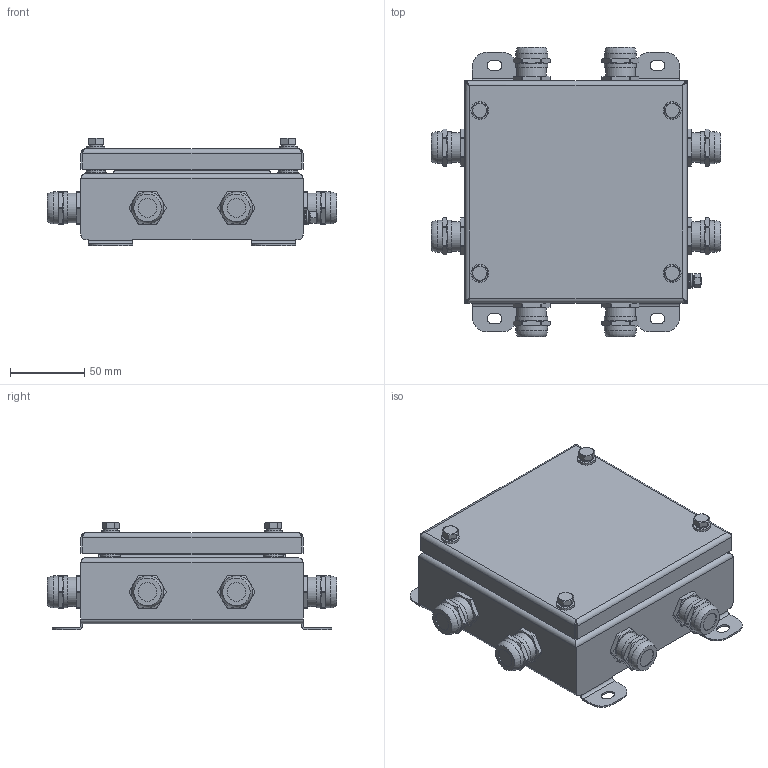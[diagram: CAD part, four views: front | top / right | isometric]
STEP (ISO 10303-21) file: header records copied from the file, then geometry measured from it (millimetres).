
FILE_DESCRIPTION(('STEP AP203'), '1');
FILE_NAME('Êîðîáêà 1515 IP66', '', ('UNSPECIFIED'), ('UNSPECIFIED'), 'ASCON STEP Converter 1.6', 'ASCON Math Kernel', '');
FILE_SCHEMA(('CONFIG_CONTROL_DESIGN'));
Length unit declared in the file: millimetre
Bounding box: 195.67 x 195.67 x 72.5 mm (x, y, z)
Volume: 1331915.2 mm3; surface area: 131695.3 mm2
Topology: 1 solids, 1 shells, 623 faces, 1542 edges, 978 vertices
Faces by surface type: plane 306, cylinder 223, cone 72, torus 14, bspline 8
Full cylindrical faces by diameter (mm): 3.7 x1, 5 x2, 5.5 x2, 6 x4, 6.5 x1, 6.6 x4, 8.5 x4, 10 x2, 12 x4, 12.6 x8, 13 x4, 14 x4, 20 x8, 21.6 x16
Entity records: 33705 total; most frequent: CARTESIAN_POINT 5962, DIRECTION 2920, ORIENTED_EDGE 2880, PROPERTY_DEFINITION 1888, PROPERTY_DEFINITION_REPRESENTATION 1888, REPRESENTATION 1888, EDGE_CURVE 1440, AXIS2_PLACEMENT_3D 1154
